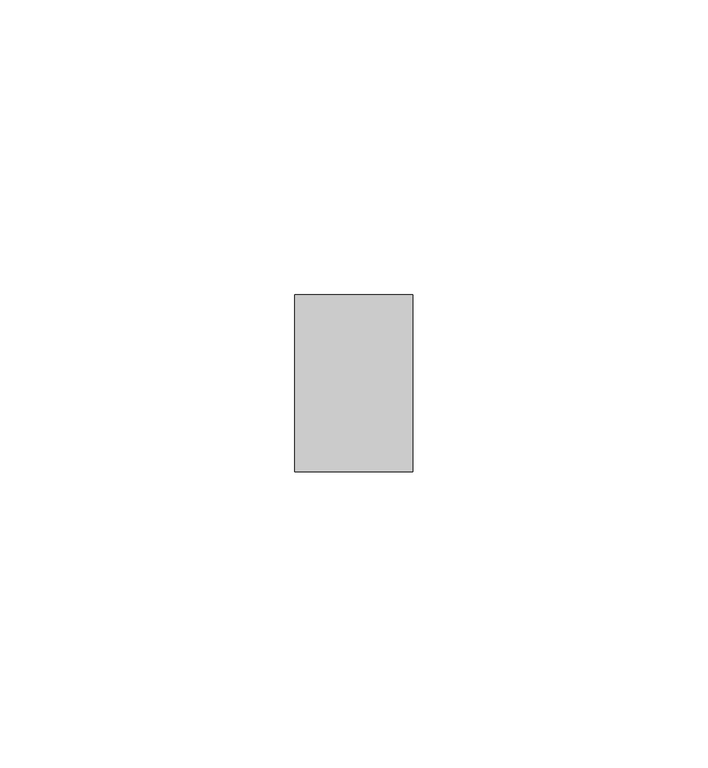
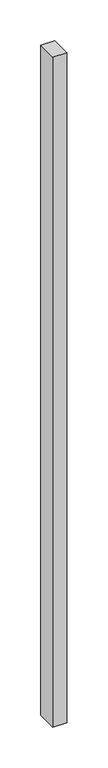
"""IFC4 building model written with IfcOpenShell, lengths in millimetres: member geometry, Прямоугольный импост : Квадрат 10 мм - Зазор между навесными плитами."""

from ifc_helpers import new_model, si_unit, frame, origin, place, context, project, spatial, polyline, outline, extrude, source, transform, mapped, element, save


def member_b870fe70(model_context):
    return source(origin(), model_context, "Body", "SweptSolid", [
        extrude(outline(polyline([(0.0, 15.0), (0.0, -15.0), (-20.0, -15.0), (-20.0, 15.0), (0.0, 15.0)])), frame((0.0, 0.0, -1005.424264), z_axis=(0.0, 0.0, 1.0), x_axis=(1.0, 0.0, 0.0)), (0.0, 0.0, 1.0), 1005.424264),
    ])


if __name__ == "__main__":
    model = new_model("IFC4")
    model_context = context("Model", 3, world=origin())
    ifc_project = project(units=[si_unit("LENGTHUNIT", "METRE", prefix="MILLI")], contexts=[model_context])
    site = spatial("IfcSite", under=ifc_project)
    building = spatial("IfcBuilding", under=site)
    placement = place(None, origin())
    member_shape = member_b870fe70(model_context)
    element("IfcMember", 1, ObjectType="Прямоугольный импост : Квадрат 10 мм - Зазор между навесными плитами", at=placement, inside=building, context=model_context, shape_type="MappedRepresentation", body=[
        mapped(member_shape, transform((0.0, 0.0, 0.0), x_axis=(1.0, 0.0, 0.0), y_axis=(0.0, 1.0, 0.0), z_axis=(0.0, 0.0, 1.0))),
    ])
    save(model, "model.ifc")
